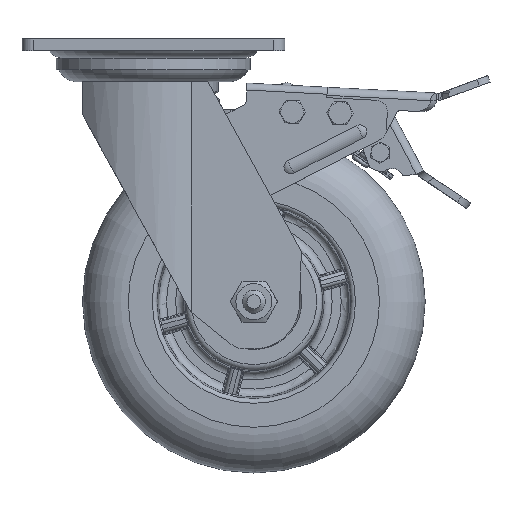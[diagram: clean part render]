
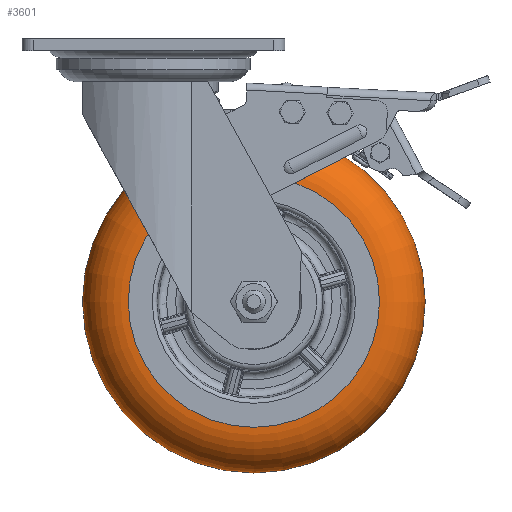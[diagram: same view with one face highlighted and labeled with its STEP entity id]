
A CAD part, front view. The second image highlights one B-rep face of the part: STEP entity #3601.
In plain terms, the highlighted toroidal (fillet/blend) face has major radius 55 mm and minor radius 20 mm.
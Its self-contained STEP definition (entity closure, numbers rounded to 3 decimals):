
#335=TOROIDAL_SURFACE('',#27969,55.,20.);
#3601=ADVANCED_FACE('',(#6048,#6049),#335,.T.);
#6048=FACE_BOUND('',#7675,.T.);
#6049=FACE_BOUND('',#7676,.T.);
#7675=EDGE_LOOP('',(#15847));
#7676=EDGE_LOOP('',(#15848));
#8840=CIRCLE('',#27963,55.);
#8842=CIRCLE('',#27966,75.);
#15847=ORIENTED_EDGE('',*,*,#22789,.F.);
#15848=ORIENTED_EDGE('',*,*,#22791,.F.);
#19153=VERTEX_POINT('',#79945);
#19155=VERTEX_POINT('',#79950);
#22789=EDGE_CURVE('',#19153,#19153,#8840,.T.);
#22791=EDGE_CURVE('',#19155,#19155,#8842,.T.);
#27963=AXIS2_PLACEMENT_3D('',#79944,#34041,#34042);
#27966=AXIS2_PLACEMENT_3D('',#79949,#34047,#34048);
#27969=AXIS2_PLACEMENT_3D('',#79953,#34053,#34054);
#34041=DIRECTION('',(0.,-1.,0.));
#34042=DIRECTION('',(0.,0.,1.));
#34047=DIRECTION('',(0.,1.,0.));
#34048=DIRECTION('',(0.,0.,1.));
#34053=DIRECTION('',(0.,1.,0.));
#34054=DIRECTION('',(0.,0.,-1.));
#79944=CARTESIAN_POINT('',(44.,-25.,-115.));
#79945=CARTESIAN_POINT('',(44.,-25.,-60.));
#79949=CARTESIAN_POINT('',(44.,-5.,-115.));
#79950=CARTESIAN_POINT('',(44.,-5.,-40.));
#79953=CARTESIAN_POINT('',(44.,-5.,-115.));
